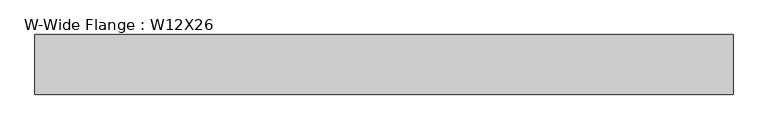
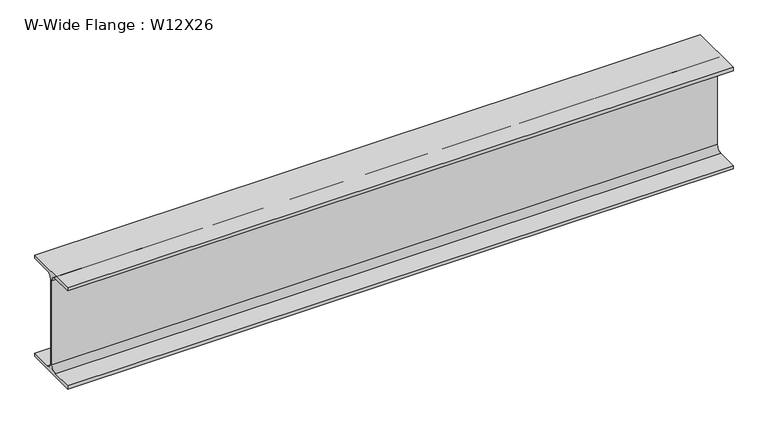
"""IFC4 building model written with IfcOpenShell, lengths in millimetres: beam geometry, W-Wide Flange : W12X26."""

from ifc_helpers import new_model, si_unit, point, frame, frame_2d, origin, place, context, project, spatial, polyline, circle_curve, trimmed, segment, composite_curve, outline, extrude, source, transform, mapped, element, save


def w_wide_flange_w12x26_462c3e25(model_context):
    return source(origin(), model_context, "Body", "SweptSolid", [
        extrude(outline(composite_curve([segment(polyline([(82.4011719, -145.5539063), (82.4011719, -155.178125), (-82.4011719, -155.178125), (-82.4011719, -145.5539063), (-20.2902344, -145.5539063)]), True, "CONTINUOUS"), segment(trimmed(circle_curve(frame_2d((-20.2902344, -128.190625)), 17.3632812), [point((-20.2902344, -145.5539063))], [point((-2.9269531, -128.190625))], True, "CARTESIAN"), True, "CONTINUOUS"), segment(polyline([(-2.9269531, -128.190625), (-2.9269531, 128.190625)]), True, "CONTINUOUS"), segment(trimmed(circle_curve(frame_2d((-20.2902344, 128.190625)), 17.3632812), [point((-2.9269531, 128.190625))], [point((-20.2902344, 145.5539062))], True, "CARTESIAN"), True, "CONTINUOUS"), segment(polyline([(-20.2902344, 145.5539062), (-82.4011719, 145.5539062), (-82.4011719, 155.178125), (82.4011719, 155.178125), (82.4011719, 145.5539062), (20.2902344, 145.5539062)]), True, "CONTINUOUS"), segment(trimmed(circle_curve(frame_2d((20.2902344, 128.190625)), 17.3632812), [point((20.2902344, 145.5539062))], [point((2.9269531, 128.190625))], True, "CARTESIAN"), True, "CONTINUOUS"), segment(polyline([(2.9269531, 128.190625), (2.9269531, -128.190625)]), True, "CONTINUOUS"), segment(trimmed(circle_curve(frame_2d((20.2902344, -128.190625)), 17.3632812), [point((2.9269531, -128.190625))], [point((20.2902344, -145.5539063))], True, "CARTESIAN"), True, "CONTINUOUS"), segment(polyline([(20.2902344, -145.5539063), (82.4011719, -145.5539063)]), True, "CONTINUOUS")], self_intersect=False)), frame((-1068.0068537, 0.0, 0.0), z_axis=(1.0, 0.0, 0.0), x_axis=(0.0, 1.0, 0.0)), (0.0, 0.0, 1.0), 1930.5599281),
    ])


if __name__ == "__main__":
    model = new_model("IFC4")
    model_context = context("Model", 3, world=origin())
    ifc_project = project(units=[si_unit("LENGTHUNIT", "METRE", prefix="MILLI")], contexts=[model_context])
    site = spatial("IfcSite", under=ifc_project)
    building = spatial("IfcBuilding", under=site)
    placement = place(None, origin())
    w_wide_flange_w12x26_shape = w_wide_flange_w12x26_462c3e25(model_context)
    element("IfcBeam", 1, ObjectType="W-Wide Flange : W12X26", at=placement, inside=building, context=model_context, shape_type="MappedRepresentation", body=[
        mapped(w_wide_flange_w12x26_shape, transform((0.0, 0.0, 0.0), x_axis=(1.0, 0.0, 0.0), y_axis=(0.0, 1.0, 0.0), z_axis=(0.0, 0.0, 1.0))),
    ])
    save(model, "model.ifc")
